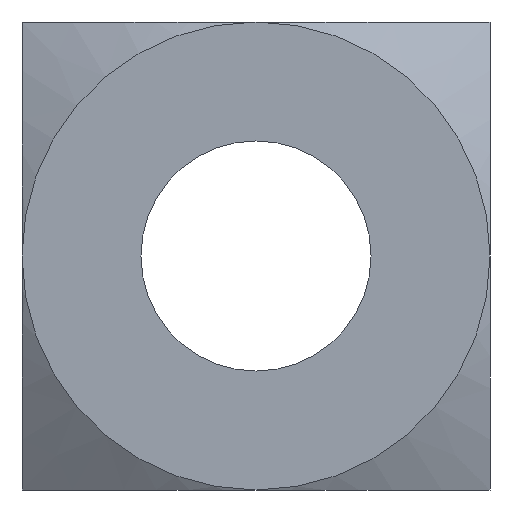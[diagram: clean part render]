
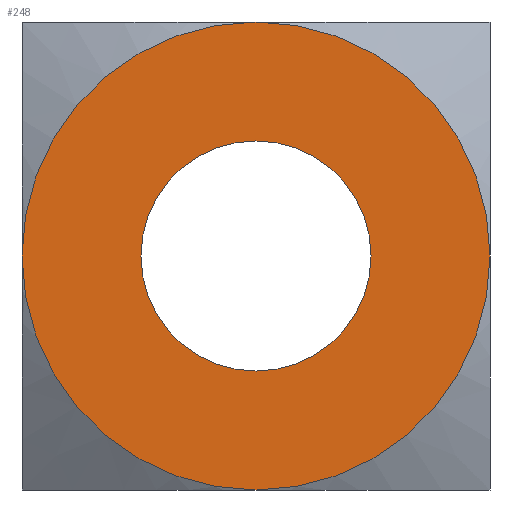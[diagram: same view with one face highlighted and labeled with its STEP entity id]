
A CAD part, front view. The second image highlights one B-rep face of the part: STEP entity #248.
In plain terms, the highlighted planar face has unit normal (0, -1, 0).
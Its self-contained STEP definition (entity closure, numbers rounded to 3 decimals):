
#49=ORIENTED_EDGE('',*,*,#93,.T.);
#50=ORIENTED_EDGE('',*,*,#94,.T.);
#51=ORIENTED_EDGE('',*,*,#95,.T.);
#52=ORIENTED_EDGE('',*,*,#96,.T.);
#53=ORIENTED_EDGE('',*,*,#97,.T.);
#93=EDGE_CURVE('',#115,#115,#129,.T.);
#94=EDGE_CURVE('',#116,#117,#130,.T.);
#95=EDGE_CURVE('',#117,#118,#131,.T.);
#96=EDGE_CURVE('',#118,#119,#132,.T.);
#97=EDGE_CURVE('',#119,#116,#133,.T.);
#115=VERTEX_POINT('',#328);
#116=VERTEX_POINT('',#330);
#117=VERTEX_POINT('',#331);
#118=VERTEX_POINT('',#333);
#119=VERTEX_POINT('',#335);
#129=CIRCLE('',#265,2.459);
#130=CIRCLE('',#266,5.);
#131=CIRCLE('',#267,5.);
#132=CIRCLE('',#268,5.);
#133=CIRCLE('',#269,5.);
#135=EDGE_LOOP('',(#49));
#136=EDGE_LOOP('',(#50,#51,#52,#53));
#149=FACE_BOUND('',#135,.T.);
#150=FACE_BOUND('',#136,.T.);
#163=PLANE('',#264);
#248=ADVANCED_FACE('',(#149,#150),#163,.T.);
#264=AXIS2_PLACEMENT_3D('',#326,#283,#284);
#265=AXIS2_PLACEMENT_3D('',#327,#285,#286);
#266=AXIS2_PLACEMENT_3D('',#329,#287,#288);
#267=AXIS2_PLACEMENT_3D('',#332,#289,#290);
#268=AXIS2_PLACEMENT_3D('',#334,#291,#292);
#269=AXIS2_PLACEMENT_3D('',#336,#293,#294);
#283=DIRECTION('',(0.,-1.,0.));
#284=DIRECTION('',(0.,0.,-1.));
#285=DIRECTION('',(0.,1.,0.));
#286=DIRECTION('',(0.,0.,-1.));
#287=DIRECTION('',(0.,-1.,0.));
#288=DIRECTION('',(0.,0.,-1.));
#289=DIRECTION('',(0.,-1.,0.));
#290=DIRECTION('',(0.,0.,-1.));
#291=DIRECTION('',(0.,-1.,0.));
#292=DIRECTION('',(0.,0.,-1.));
#293=DIRECTION('',(0.,-1.,0.));
#294=DIRECTION('',(0.,0.,-1.));
#326=CARTESIAN_POINT('',(0.,0.,0.));
#327=CARTESIAN_POINT('',(0.,0.,0.));
#328=CARTESIAN_POINT('',(0.,0.,-2.459));
#329=CARTESIAN_POINT('',(0.,0.,0.));
#330=CARTESIAN_POINT('',(5.,0.,0.));
#331=CARTESIAN_POINT('',(0.,0.,5.));
#332=CARTESIAN_POINT('',(0.,0.,0.));
#333=CARTESIAN_POINT('',(-5.,0.,0.));
#334=CARTESIAN_POINT('',(0.,0.,0.));
#335=CARTESIAN_POINT('',(0.,0.,-5.));
#336=CARTESIAN_POINT('',(0.,0.,0.));
